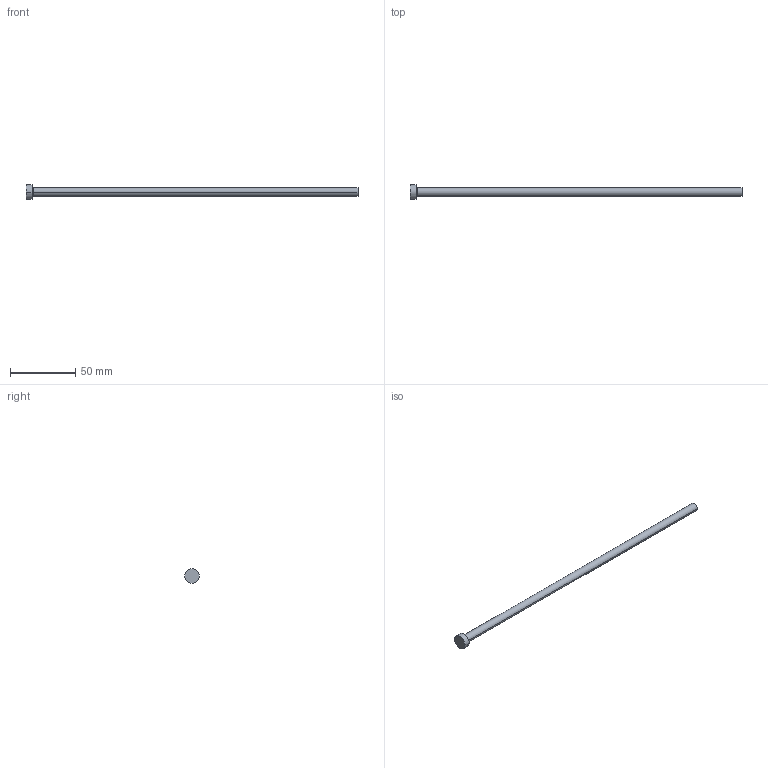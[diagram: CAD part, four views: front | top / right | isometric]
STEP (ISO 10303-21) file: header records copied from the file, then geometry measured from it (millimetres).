
FILE_DESCRIPTION (( 'STEP AP214' ), '1' );
FILE_NAME ('P17-10.STEP', '2020-03-11T18:41:04', ( '' ), ( '' ), 'SwSTEP 2.0', 'SolidWorks 2018', '' );
FILE_SCHEMA (( 'AUTOMOTIVE_DESIGN' ));
Length unit declared in the file: inch
Products named in the file (1): P17-10
Bounding box: 254 x 11.11 x 11.11 mm (x, y, z)
Volume: 8338.4 mm3; surface area: 5315.9 mm2
Topology: 1 solids, 1 shells, 13 faces, 24 edges, 14 vertices
Faces by surface type: cone 4, cylinder 4, plane 3, torus 2
Entity records: 366 total; most frequent: DIRECTION 68, CARTESIAN_POINT 52, ORIENTED_EDGE 48, AXIS2_PLACEMENT_3D 30, EDGE_CURVE 24, CIRCLE 16, EDGE_LOOP 14, VERTEX_POINT 14
